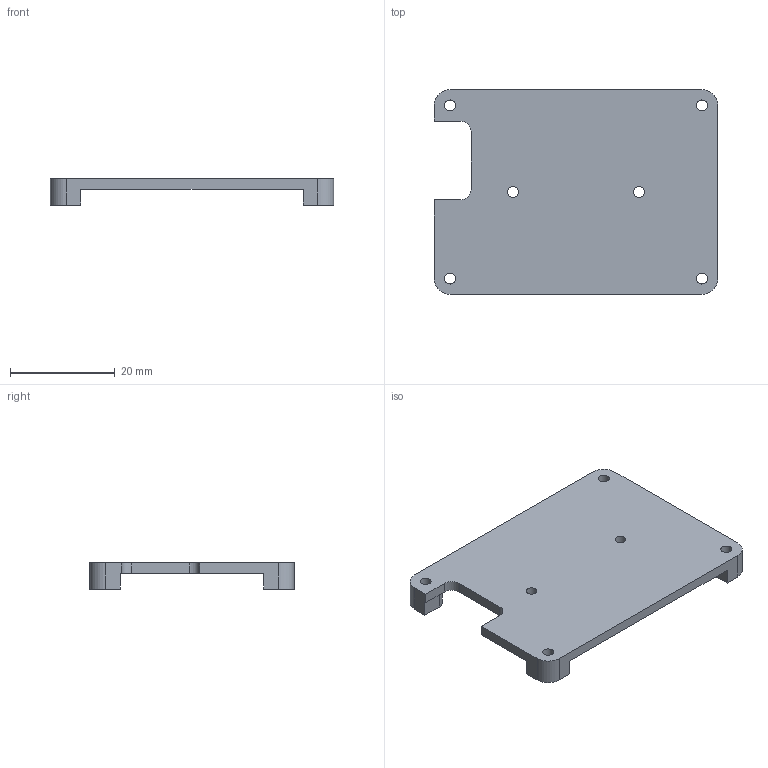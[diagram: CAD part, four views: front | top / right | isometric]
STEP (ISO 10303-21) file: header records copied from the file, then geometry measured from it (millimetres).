
FILE_DESCRIPTION(/* description */ ('STEP AP214','CAx-IF Rec.Pracs.---Representation and Presentation of Product Manufacturing Information (PMI)---4.0---2014-10-13'),/* implementation_level */ '2;1');
FILE_NAME(/* name */ 'BentoIO RPI-CM5 Heatsink LowProfile_V1.0.step',/* time_stamp */ '2025-06-05T14:38:38+02:00',/* author */ (''),/* organization */ (''),/* preprocessor_version */ 'ST-DEVELOPER v20',/* originating_system */ 'Autodesk Translation Framework v13.20.0.188',/* authorisation */ '');
FILE_SCHEMA (('AP242_MANAGED_MODEL_BASED_3D_ENGINEERING_MIM_LF { 1 0 10303 442 1 1 4 }'));
Length unit declared in the file: millimetre
Products named in the file (1): RPI-CM4-Heatsink
Bounding box: 54 x 39 x 5 mm (x, y, z)
Volume: 4279 mm3; surface area: 4744.8 mm2
Topology: 1 solids, 1 shells, 38 faces, 108 edges, 72 vertices
Faces by surface type: plane 22, cylinder 16
Full cylindrical faces by diameter (mm): 2.075 x6
Entity records: 1297 total; most frequent: CARTESIAN_POINT 219, DIRECTION 218, ORIENTED_EDGE 216, EDGE_CURVE 108, LINE 76, VECTOR 76, VERTEX_POINT 72, AXIS2_PLACEMENT_3D 71
